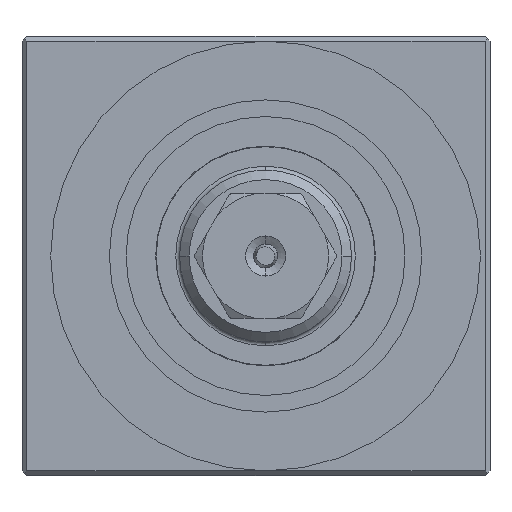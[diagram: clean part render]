
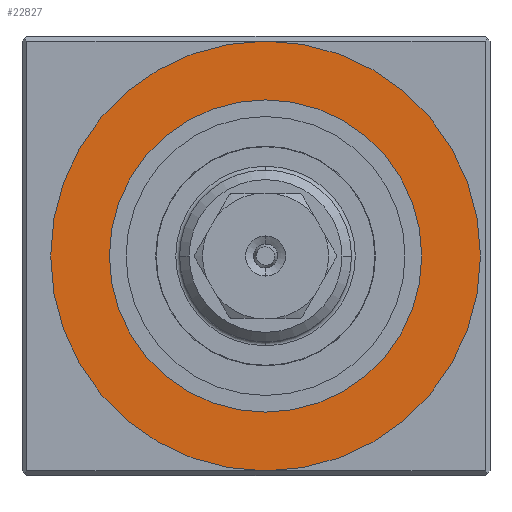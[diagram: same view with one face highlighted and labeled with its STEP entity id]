
A CAD part, left-side view. The second image highlights one B-rep face of the part: STEP entity #22827.
In plain terms, the highlighted planar face has unit normal (-1, 0, 0).
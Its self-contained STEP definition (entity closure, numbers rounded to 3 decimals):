
#929 = DIRECTION ( 'NONE',  ( 0., 0., 1. ) ) ;
#1630 = EDGE_CURVE ( 'NONE', #15329, #41001, #41891, .T. ) ;
#3072 = DIRECTION ( 'NONE',  ( 1., 0., 0. ) ) ;
#4728 = CIRCLE ( 'NONE', #48211, 16.35 ) ;
#5027 = EDGE_CURVE ( 'NONE', #52518, #24608, #4728, .T. ) ;
#7983 = CARTESIAN_POINT ( 'NONE',  ( -5., 22., 0. ) ) ;
#9542 = CARTESIAN_POINT ( 'NONE',  ( -5., -0.5, -16.35 ) ) ;
#11535 = DIRECTION ( 'NONE',  ( -1., 0., 0. ) ) ;
#15329 = VERTEX_POINT ( 'NONE', #42451 ) ;
#17218 = DIRECTION ( 'NONE',  ( -1., 0., 0. ) ) ;
#18086 = AXIS2_PLACEMENT_3D ( 'NONE', #38039, #11535, #42489 ) ;
#19132 = DIRECTION ( 'NONE',  ( -1., 0., 0. ) ) ;
#19518 = EDGE_LOOP ( 'NONE', ( #24989, #19570 ) ) ;
#19570 = ORIENTED_EDGE ( 'NONE', *, *, #47275, .F. ) ;
#22827 = ADVANCED_FACE ( 'NONE', ( #28043, #41174 ), #38281, .F. ) ;
#24608 = VERTEX_POINT ( 'NONE', #9542 ) ;
#24989 = ORIENTED_EDGE ( 'NONE', *, *, #5027, .F. ) ;
#27498 = DIRECTION ( 'NONE',  ( -1., 0., 0. ) ) ;
#28043 = FACE_OUTER_BOUND ( 'NONE', #50964, .T. ) ;
#29572 = CARTESIAN_POINT ( 'NONE',  ( -5., -0.5, -22.5 ) ) ;
#30773 = CIRCLE ( 'NONE', #18086, 16.35 ) ;
#31703 = AXIS2_PLACEMENT_3D ( 'NONE', #45596, #19132, #50061 ) ;
#32473 = ORIENTED_EDGE ( 'NONE', *, *, #1630, .T. ) ;
#34025 = DIRECTION ( 'NONE',  ( 0., -1., 0. ) ) ;
#34820 = DIRECTION ( 'NONE',  ( 0., 1., 0. ) ) ;
#38039 = CARTESIAN_POINT ( 'NONE',  ( -5., -0.5, 0. ) ) ;
#38281 = PLANE ( 'NONE',  #45177 ) ;
#41001 = VERTEX_POINT ( 'NONE', #7983 ) ;
#41174 = FACE_BOUND ( 'NONE', #19518, .T. ) ;
#41891 = CIRCLE ( 'NONE', #55443, 22.5 ) ;
#42451 = CARTESIAN_POINT ( 'NONE',  ( -5., -23., 0. ) ) ;
#42489 = DIRECTION ( 'NONE',  ( 0., 0., 1. ) ) ;
#45177 = AXIS2_PLACEMENT_3D ( 'NONE', #29572, #3072, #34025 ) ;
#45596 = CARTESIAN_POINT ( 'NONE',  ( -5., -0.5, 0. ) ) ;
#47275 = EDGE_CURVE ( 'NONE', #24608, #52518, #30773, .T. ) ;
#48211 = AXIS2_PLACEMENT_3D ( 'NONE', #53989, #27498, #929 ) ;
#48222 = CARTESIAN_POINT ( 'NONE',  ( -5., -0.5, 0. ) ) ;
#50061 = DIRECTION ( 'NONE',  ( 0., 1., 0. ) ) ;
#50897 = ORIENTED_EDGE ( 'NONE', *, *, #55964, .T. ) ;
#50964 = EDGE_LOOP ( 'NONE', ( #50897, #32473 ) ) ;
#50965 = CARTESIAN_POINT ( 'NONE',  ( -5., -0.5, 16.35 ) ) ;
#52518 = VERTEX_POINT ( 'NONE', #50965 ) ;
#52799 = CIRCLE ( 'NONE', #31703, 22.5 ) ;
#53989 = CARTESIAN_POINT ( 'NONE',  ( -5., -0.5, 0. ) ) ;
#55443 = AXIS2_PLACEMENT_3D ( 'NONE', #48222, #17218, #34820 ) ;
#55964 = EDGE_CURVE ( 'NONE', #41001, #15329, #52799, .T. ) ;
